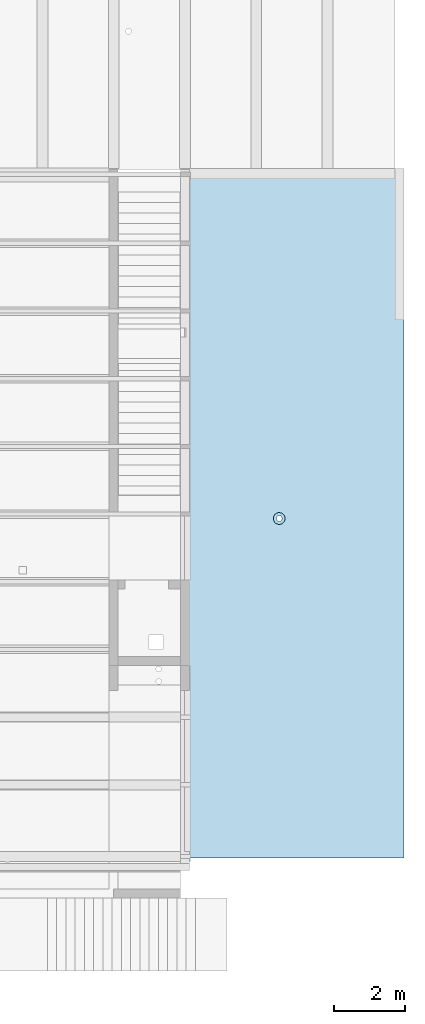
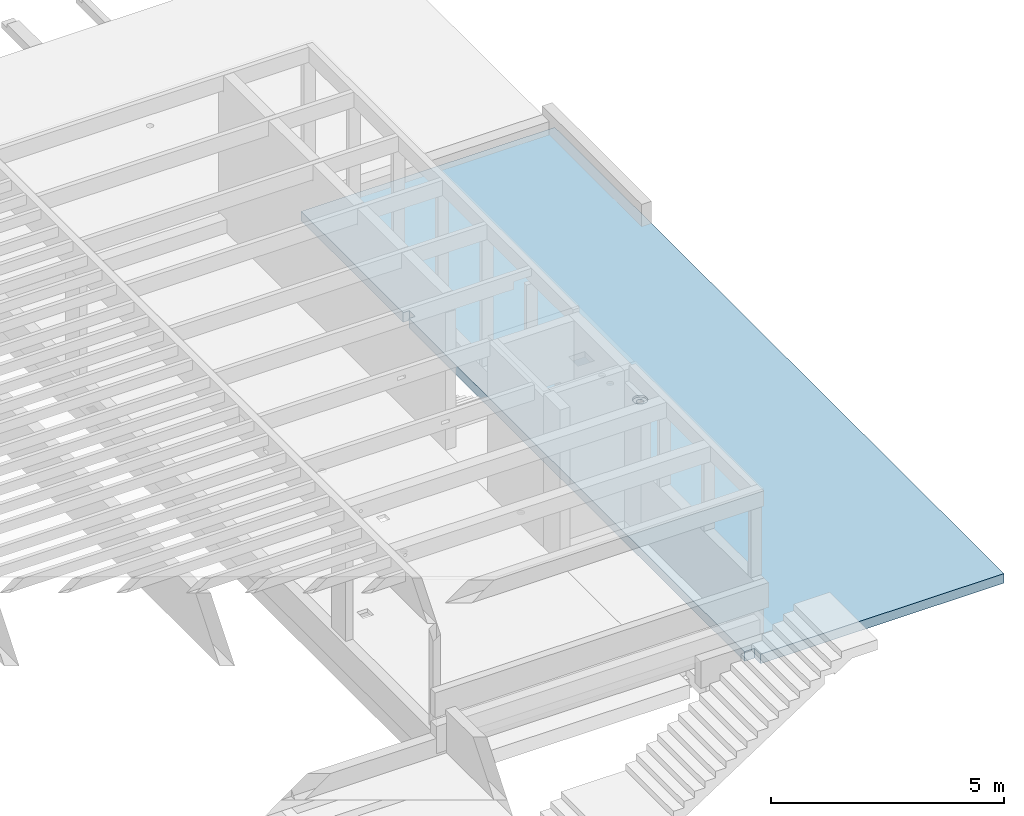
# One storey, part 9 of 14: 1 slab, 12 openings.
"""IFC2X3 building model written with IfcOpenShell, lengths in metres."""

from ifc_helpers import new_model, entity, si_unit, converted_unit, direction, frame, frame_2d, origin, origin_2d_with_axis, place, context, subcontext, project, spatial, polyline, rectangle, circle, outline, extrude, faceted_brep, material, layer, layer_set, layer_usage, type_object, element, save


model = new_model("IFC2X3")

# Units and contexts
model_context = context("Model", 3, precision=1e-05, world=frame((30.086303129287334, 2.687674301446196, 462.0)), true_north=direction((0.19008937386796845, 0.9817667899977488)))
body_context = subcontext(model_context, "Body", "Model", "MODEL_VIEW")
ifc_project = project(units=[si_unit("LENGTHUNIT", "METRE"), si_unit("AREAUNIT", "SQUARE_METRE"), converted_unit("PLANEANGLEUNIT", "DEGREE", entity("IfcPlaneAngleMeasure", 0.017453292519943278), si_unit("PLANEANGLEUNIT", "RADIAN"), dimensions=[0, 0, 0, 0, 0, 0, 0]), si_unit("VOLUMEUNIT", "CUBIC_METRE")], contexts=[model_context])

# Site, building, storey
site_placement = place(None, origin())
site = spatial("IfcSite", under=ifc_project, at=site_placement, Name="Default", CompositionType="ELEMENT")
building_placement = place(site_placement, origin())
building = spatial("IfcBuilding", under=site, at=building_placement, CompositionType="ELEMENT")
storey_placement = place(building_placement, origin())
storey = spatial("IfcBuildingStorey", under=building, at=storey_placement, Name="FB_E00_OKFB", CompositionType="ELEMENT", Elevation=0.0)

# Slab, openings
ifc_material = material(Name="WS_CONCRETE_REINFORCED")
ifc_layer = layer(ifc_material, 0.24999999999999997)
ifc_layer_set = layer_set([ifc_layer], Name="Geschossdecke:WS_SLB_CON_250")
ifc_layer_usage = layer_usage(ifc_layer_set, "AXIS3", "POSITIVE", 0.0)
slab_type = type_object("IfcSlabType", Name="Geschossdecke:WS_SLB_CON_250", PredefinedType="FLOOR", material=ifc_layer_set)
slab_placement = place(storey_placement, frame((91.98033873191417, -20.484648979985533, 3.429999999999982)))
slab = element("IfcSlab", 1, at=slab_placement, inside=storey, type_object=slab_type, material=ifc_layer_usage, Name="Geschossdecke:WS_SLB_CON_250", ObjectType="Geschossdecke:WS_SLB_CON_250", PredefinedType="FLOOR", context=body_context, shape_type="SweptSolid", body=[
    extrude(outline(polyline([(-3.1374995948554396, 9.624996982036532), (-3.1374995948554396, -9.624996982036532), (2.887499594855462, -9.624996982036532), (2.887499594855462, -9.374996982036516), (3.1374995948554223, -9.374996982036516), (3.1374995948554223, 9.624996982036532), (-3.1374995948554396, 9.624996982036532)])), frame((3.1374995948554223, 9.624996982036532, 0.2500000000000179), z_axis=(0.0, 0.0, -1.0), x_axis=(-1.0, 0.0, 0.0)), (0.0, 0.0, 1.0), 0.25),
])
opening_1_placement = place(slab_placement, origin())
element("IfcOpeningElement", 2, at=opening_1_placement, cuts=slab, Name="Geschossdecke:WS_SLB_CON_250", ObjectType="Opening", context=body_context, shape_type="SweptSolid", body=[
    extrude(rectangle(XDim=0.24999999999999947, YDim=0.15000000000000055, at=origin_2d_with_axis()), frame((0.07500000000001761, 14.750722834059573, 0.0), z_axis=(0.0, 0.0, 1.0), x_axis=(0.0, -1.0, 0.0)), (0.0, 0.0, 1.0), 0.25),
])
opening_2_placement = place(slab_placement, origin())
element("IfcOpeningElement", 3, at=opening_2_placement, cuts=slab, Name="Geschossdecke:WS_SLB_CON_250", ObjectType="Opening", context=body_context, shape_type="SweptSolid", body=[
    extrude(circle(Radius=0.08, at=frame_2d((1.0609038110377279e-30, -1.7325874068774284e-14), x_axis=(1.0, 0.0))), frame((2.7710852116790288, 9.524992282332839, 0.0), z_axis=(0.0, 0.0, 1.0), x_axis=(0.0, 1.0, 0.0)), (0.0, 0.0, 1.0), 0.25),
])
opening_3_placement = place(slab_placement, origin())
element("IfcOpeningElement", 4, at=opening_3_placement, cuts=slab, Name="Geschossdecke:WS_SLB_CON_250", ObjectType="Opening", context=body_context, shape_type="SweptSolid", body=[
    extrude(circle(Radius=0.16499999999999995, at=frame_2d((1.0609038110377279e-30, -1.7325874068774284e-14), x_axis=(1.0, 0.0))), frame((2.7710852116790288, 9.524992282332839, 0.2000000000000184), z_axis=(0.0, 0.0, 1.0), x_axis=(0.0, 1.0, 0.0)), (0.0, 0.0, 1.0), 0.05),
])
opening_4_placement = place(slab_placement, origin())
element("IfcOpeningElement", 5, at=opening_4_placement, cuts=slab, Name="Geschossdecke:WS_SLB_CON_250", ObjectType="Opening", context=body_context, shape_type="SweptSolid", body=[
    extrude(circle(Radius=0.031499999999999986, at=frame_2d((-3.336287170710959e-27, -3.465174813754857e-14), x_axis=(1.0, 0.0))), frame((3.1250000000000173, 18.6811478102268, -0.0307692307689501), z_axis=(0.0, 0.923076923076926, 0.38461538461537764), x_axis=(0.0, -0.38461538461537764, 0.923076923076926)), (0.0, 0.0, 1.0), 0.7999999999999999),
])
opening_5_placement = place(slab_placement, origin())
element("IfcOpeningElement", 6, at=opening_5_placement, cuts=slab, Name="Geschossdecke:WS_SLB_CON_250", ObjectType="Opening", context=body_context, shape_type="SweptSolid", body=[
    extrude(circle(Radius=0.031499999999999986, at=frame_2d((-1.6785047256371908e-27, -1.7325874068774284e-14), x_axis=(1.0, 0.0))), frame((3.5249999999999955, 18.681147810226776, -0.0307692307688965), z_axis=(0.0, 0.923076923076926, 0.38461538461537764), x_axis=(0.0, -0.38461538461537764, 0.923076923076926)), (0.0, 0.0, 1.0), 0.7999999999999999),
])
opening_6_placement = place(slab_placement, origin())
element("IfcOpeningElement", 7, at=opening_6_placement, cuts=slab, Name="Geschossdecke:WS_SLB_CON_250", ObjectType="Opening", context=body_context, shape_type="SweptSolid", body=[
    extrude(circle(Radius=0.031499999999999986, at=frame_2d((-3.3984540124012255e-27, -3.465174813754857e-14), x_axis=(1.0, 0.0))), frame((3.9250000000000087, 18.68114781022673, -0.030769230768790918), z_axis=(0.0, 0.923076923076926, 0.38461538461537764), x_axis=(0.0, -0.38461538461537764, 0.923076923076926)), (0.0, 0.0, 1.0), 0.7999999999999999),
])
opening_7_placement = place(slab_placement, origin())
element("IfcOpeningElement", 8, at=opening_7_placement, cuts=slab, Name="Geschossdecke:WS_SLB_CON_250", ObjectType="Opening", context=body_context, shape_type="SweptSolid", body=[
    extrude(circle(Radius=0.031499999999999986, at=frame_2d((-1.719949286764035e-27, -1.7325874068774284e-14), x_axis=(1.0, 0.0))), frame((4.324999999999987, 18.681147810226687, -0.030769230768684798), z_axis=(0.0, 0.923076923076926, 0.38461538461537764), x_axis=(0.0, -0.38461538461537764, 0.923076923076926)), (0.0, 0.0, 1.0), 0.7999999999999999),
])
opening_8_placement = place(slab_placement, origin())
element("IfcOpeningElement", 9, at=opening_8_placement, cuts=slab, Name="Geschossdecke:WS_SLB_CON_250", ObjectType="Opening", context=body_context, shape_type="SweptSolid", body=[
    extrude(circle(Radius=0.031499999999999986, at=frame_2d((-3.481343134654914e-27, -3.465174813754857e-14), x_axis=(1.0, 0.0))), frame((4.7250000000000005, 18.68114781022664, -0.030769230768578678), z_axis=(0.0, 0.923076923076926, 0.38461538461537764), x_axis=(0.0, -0.38461538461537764, 0.923076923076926)), (0.0, 0.0, 1.0), 0.7999999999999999),
])
opening_9_placement = place(slab_placement, origin())
element("IfcOpeningElement", 10, at=opening_9_placement, cuts=slab, Name="Geschossdecke:WS_SLB_CON_250", ObjectType="Opening", context=body_context, shape_type="SweptSolid", body=[
    extrude(circle(Radius=0.031499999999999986, at=frame_2d((-1.7613938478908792e-27, -1.7325874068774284e-14), x_axis=(1.0, 0.0))), frame((5.124999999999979, 18.681147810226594, -0.030769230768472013), z_axis=(0.0, 0.923076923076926, 0.38461538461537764), x_axis=(0.0, -0.38461538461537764, 0.923076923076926)), (0.0, 0.0, 1.0), 0.7999999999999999),
])
opening_10_placement = place(slab_placement, origin())
element("IfcOpeningElement", 11, at=opening_10_placement, cuts=slab, Name="Geschossdecke:WS_SLB_CON_250", ObjectType="Opening", context=body_context, shape_type="SweptSolid", body=[
    extrude(circle(Radius=0.031499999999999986, at=frame_2d((-3.564232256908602e-27, -3.465174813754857e-14), x_axis=(1.0, 0.0))), frame((5.5249999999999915, 18.681147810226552, -0.03076923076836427), z_axis=(0.0, 0.923076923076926, 0.38461538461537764), x_axis=(0.0, -0.38461538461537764, 0.923076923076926)), (0.0, 0.0, 1.0), 0.7999999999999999),
])
opening_11_placement = place(slab_placement, origin())
element("IfcOpeningElement", 12, at=opening_11_placement, cuts=slab, Name="Geschossdecke:WS_SLB_CON_250", ObjectType="Opening", context=body_context, shape_type="SweptSolid", body=[
    extrude(circle(Radius=0.031499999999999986, at=frame_2d((-1.8028384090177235e-27, -1.7325874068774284e-14), x_axis=(1.0, 0.0))), frame((5.92499999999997, 18.681147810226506, -0.030769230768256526), z_axis=(0.0, 0.923076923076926, 0.38461538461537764), x_axis=(0.0, -0.38461538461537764, 0.923076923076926)), (0.0, 0.0, 1.0), 0.7999999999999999),
])
opening_12_placement = place(slab_placement, frame((-91.98033873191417, 20.484648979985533, -3.429999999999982)))
element("IfcOpeningElement", 13, at=opening_12_placement, cuts=slab, Name="Geschossdecke:WS_SLB_CON_250", ObjectType="Opening", context=body_context, shape_type="Brep", body=[
    faceted_brep([(93.09770733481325, -1.347155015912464, 3.4300000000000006), (93.10644785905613, -1.3357641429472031, 3.4299999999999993), (93.11783873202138, -1.327023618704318, 3.4299999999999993), (93.13110368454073, -1.3215290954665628, 3.4299999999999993), (93.14533873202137, -1.3196550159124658, 3.4299999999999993), (93.15957377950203, -1.321529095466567, 3.4299999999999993), (93.17283873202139, -1.327023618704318, 3.4299999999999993), (93.18422960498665, -1.3357641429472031, 3.4299999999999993), (93.19297012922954, -1.347155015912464, 3.4300000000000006), (93.1984646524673, -1.360419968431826, 3.4300000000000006), (93.20033873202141, -1.374655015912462, 3.4300000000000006), (93.1984646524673, -1.3888900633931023, 3.4300000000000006), (93.19297012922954, -1.4021550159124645, 3.4300000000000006), (93.18422960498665, -1.4135458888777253, 3.4300000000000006), (93.17283873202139, -1.42228641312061, 3.4300000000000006), (93.15957377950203, -1.4277809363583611, 3.4300000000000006), (93.14533873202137, -1.4296550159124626, 3.4300000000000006), (93.13110368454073, -1.4277809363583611, 3.4300000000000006), (93.11783873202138, -1.4222864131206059, 3.4300000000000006), (93.10644785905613, -1.4135458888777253, 3.4300000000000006), (93.09770733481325, -1.4021550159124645, 3.4300000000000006), (93.0922128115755, -1.3888900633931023, 3.4300000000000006), (93.09033873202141, -1.374655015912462, 3.4300000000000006), (93.0922128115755, -1.360419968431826, 3.4300000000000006), (93.1128086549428, -1.235741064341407, 3.6665897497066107), (93.11783873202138, -1.1746550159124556, 3.6776313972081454), (93.10644785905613, -1.1746550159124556, 3.6688908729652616), (93.15229424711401, -1.422540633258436, 3.487902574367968), (93.13305549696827, -1.3526838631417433, 3.6106216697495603), (93.11752696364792, -1.3473047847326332, 3.607266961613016), (93.12571854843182, -1.3919555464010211, 3.5563846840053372), (93.1772467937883, -1.2731700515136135, 3.654100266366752), (93.18101500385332, -1.313424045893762, 3.628088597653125), (93.18864572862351, -1.294195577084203, 3.6310504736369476), (93.09600402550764, -1.2473030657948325, 3.642222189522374), (93.09169023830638, -1.2507372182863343, 3.628003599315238), (93.09433904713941, -1.2964059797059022, 3.613949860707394), (93.13845561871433, -1.4175943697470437, 3.506060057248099), (93.14951884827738, -1.3952089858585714, 3.557670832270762), (93.09280243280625, -1.3262880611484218, 3.584217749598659), (93.09033873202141, -1.3310213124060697, 3.554697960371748), (93.0935466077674, -1.3571058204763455, 3.5502405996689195), (93.15218220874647, -1.2604844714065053, 3.6696674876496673), (93.16364186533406, -1.301760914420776, 3.6474399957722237), (93.16573224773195, -1.2350721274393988, 3.673701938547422), (93.0922128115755, -1.1746550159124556, 3.644235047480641), (93.09033873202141, -1.1746550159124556, 3.6300000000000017), (93.09033873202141, -1.2191592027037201, 3.6249855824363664), (93.09979575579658, -1.3073291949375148, 3.6188985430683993), (93.20033873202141, -1.3696405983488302, 3.474504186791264), (93.19898722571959, -1.3726586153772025, 3.5060822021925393), (93.09128931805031, -1.2928186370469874, 3.603820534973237), (93.09033873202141, -1.2614317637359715, 3.6101937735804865), (93.09033873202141, -1.299352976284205, 3.5863662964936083), (93.19633841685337, -1.3586048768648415, 3.551750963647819), (93.19088170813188, -1.3635535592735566, 3.562674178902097), (93.19467343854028, -1.3868772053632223, 3.502648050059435), (93.13839344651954, -1.2351447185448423, 3.677268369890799), (93.13110368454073, -1.1746550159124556, 3.6831259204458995), (93.12488963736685, -1.230063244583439, 3.674866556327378), (93.18833730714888, -1.4057981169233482, 3.468299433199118), (93.17283873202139, -1.1746550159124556, 3.6776313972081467), (93.15957377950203, -1.1746550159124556, 3.6831259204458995), (93.18422960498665, -1.1746550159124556, 3.6688908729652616), (93.17812479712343, -1.2197053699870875, 3.669967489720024), (93.18787859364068, -1.2392791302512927, 3.6557961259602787), (93.19938814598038, -1.348475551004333, 3.5481636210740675), (93.19787503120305, -1.3288727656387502, 3.581633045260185), (93.10234015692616, -1.2129544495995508, 3.6611431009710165), (93.09770733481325, -1.1746550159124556, 3.6575000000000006), (93.14533873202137, -1.1746550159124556, 3.685000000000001), (93.20033873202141, -1.3548487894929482, 3.5167767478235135), (93.19297012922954, -1.1746550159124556, 3.657500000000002), (93.19313743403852, -1.32828506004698, 3.597395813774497), (93.20033873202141, -1.1746550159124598, 3.6300000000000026), (93.1984646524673, -1.1746550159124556, 3.644235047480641), (93.19908638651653, -1.2247309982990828, 3.6356613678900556), (93.19537490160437, -1.230834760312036, 3.6456356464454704), (93.11281263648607, -1.4111838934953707, 3.491332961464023), (93.10322465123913, -1.3929776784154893, 3.5179584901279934), (93.10234844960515, -1.4057277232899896, 3.468784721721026), (93.14030376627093, -1.299497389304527, 3.6520847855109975), (93.18610499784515, -1.3421829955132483, 3.597527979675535), (93.09033873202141, -1.3548487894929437, 3.516776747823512), (93.09754002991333, -1.3420508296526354, 3.5836300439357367), (93.10457246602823, -1.3421829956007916, 3.5975279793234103), (93.1123815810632, -1.2969744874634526, 3.6411625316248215), (93.09538077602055, -1.3890319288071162, 3.4914288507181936), (93.0916327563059, -1.3738247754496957, 3.5022234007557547), (93.17786880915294, -1.4112447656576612, 3.491086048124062), (93.17789218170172, -1.3839536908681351, 3.5560630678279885), (93.16514576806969, -1.4000166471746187, 3.5412145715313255), (93.09812195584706, -1.3731838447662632, 3.5425356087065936), (93.10393651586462, -1.3716210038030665, 3.560374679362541), (93.12489201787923, -1.4194737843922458, 3.4856233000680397), (93.17265115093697, -1.3109233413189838, 3.6368952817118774), (93.11266988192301, -1.3847661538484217, 3.55453765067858), (93.20033873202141, -1.2993529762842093, 3.5863662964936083), (93.19713085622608, -1.2948956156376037, 3.61245080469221), (93.20033873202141, -1.3310213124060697, 3.5546979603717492), (93.20033873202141, -1.2614317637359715, 3.6101937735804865), (93.12567978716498, -1.297940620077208, 3.6490566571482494), (93.13742509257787, -1.3950398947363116, 3.5571375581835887), (93.16581990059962, -1.4201471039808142, 3.4825060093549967), (93.09033873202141, -1.3696405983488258, 3.474504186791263), (93.1676836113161, -1.3571593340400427, 3.6012321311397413), (93.20033873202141, -1.2191592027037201, 3.6249855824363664), (93.18746780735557, -1.393279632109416, 3.5171570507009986), (93.10320965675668, -1.2618120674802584, 3.648624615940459), (93.15373937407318, -1.30273353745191, 3.649754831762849), (93.15182274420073, -1.340761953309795, 3.6229715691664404), (93.1776670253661, -1.3522307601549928, 3.598062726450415), (93.19770249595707, -1.2197823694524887, 3.607530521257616), (93.19667198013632, -1.2444654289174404, 3.5961868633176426), (93.19070823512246, -1.2116838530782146, 3.5948009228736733), (93.1984646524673, -1.1746550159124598, 3.6157649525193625), (93.1225362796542, -1.3150859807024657, 3.4825738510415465), (93.11005020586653, -1.3274708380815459, 3.4693999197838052), (93.11035886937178, -1.308760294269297, 3.512704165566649), (93.19297012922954, -1.1746550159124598, 3.6025000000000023), (93.11340951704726, -1.2430571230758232, 3.569332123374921), (93.11016026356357, -1.211640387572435, 3.5833236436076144), (93.12284673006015, -1.2181105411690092, 3.5733681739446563), (93.19861409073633, -1.2706561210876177, 3.589701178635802), (93.19942913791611, -1.2452244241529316, 3.6064501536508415), (93.15957377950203, -1.1746550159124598, 3.5768740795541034), (93.17283873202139, -1.1746550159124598, 3.5823686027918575), (93.16722363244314, -1.199887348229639, 3.577397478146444), (93.18422960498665, -1.1746550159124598, 3.5911091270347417), (93.15299498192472, -1.2141016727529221, 3.57008762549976), (93.14533873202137, -1.1746550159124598, 3.5750000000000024), (93.16826216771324, -1.230734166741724, 3.569127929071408), (93.18067998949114, -1.2152104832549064, 3.582558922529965), (93.18116510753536, -1.2601340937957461, 3.5632006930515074), (93.09122907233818, -1.3513459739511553, 3.5002493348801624), (93.1235221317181, -1.3223624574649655, 3.453159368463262), (93.11783873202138, -1.1746550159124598, 3.5823686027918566), (93.10644785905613, -1.1746550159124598, 3.5911091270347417), (93.19127055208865, -1.3073825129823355, 3.535817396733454), (93.190119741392, -1.281177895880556, 3.5599987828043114), (93.1965244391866, -1.3018457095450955, 3.55719069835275), (93.19544809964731, -1.2776052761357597, 3.5743821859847), (93.19252023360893, -1.252007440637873, 3.5833282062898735), (93.15568182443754, -1.2575931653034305, 3.550132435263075), (93.09298840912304, -1.2193480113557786, 3.6075972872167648), (93.09770733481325, -1.1746550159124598, 3.6025000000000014), (93.10029774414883, -1.2044723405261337, 3.5957754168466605), (93.0922128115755, -1.1746550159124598, 3.6157649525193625), (93.0929749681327, -1.3521855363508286, 3.4751273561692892), (93.09394747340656, -1.3411059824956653, 3.4995720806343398), (93.10006907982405, -1.3397859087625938, 3.4648314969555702), (93.13110368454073, -1.1746550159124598, 3.5768740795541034), (93.1377891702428, -1.2053676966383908, 3.5722426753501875), (93.12144946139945, -1.2630585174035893, 3.5517487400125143), (93.13735577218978, -1.2397877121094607, 3.560199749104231), (93.19070823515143, -1.3394559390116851, 3.4670288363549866), (93.19770249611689, -1.3521855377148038, 3.4751273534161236), (93.1425373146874, -1.2688233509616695, 3.540354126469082), (93.09244974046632, -1.2695888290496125, 3.5886780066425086), (93.16722363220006, -1.3220524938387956, 3.455232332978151), (93.1529949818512, -1.3147426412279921, 3.4694466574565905), (93.19967647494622, -1.3100593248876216, 3.565404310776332), (93.17020521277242, -1.2813873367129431, 3.5367323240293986), (93.16683355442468, -1.2575134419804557, 3.554286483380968), (93.19927702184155, -1.3492610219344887, 3.50298337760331), (93.13773373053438, -1.3158452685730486, 3.4652676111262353), (93.16826216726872, -1.3137829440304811, 3.486079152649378), (93.1811651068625, -1.3078557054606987, 3.5154790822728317), (93.1806799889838, -1.3272139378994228, 3.47055546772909), (93.1986140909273, -1.3343561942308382, 3.5260011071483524), (93.0921589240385, -1.3340930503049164, 3.5257259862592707), (93.10548534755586, -1.2381935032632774, 3.5791241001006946), (93.14431234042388, -1.3060365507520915, 3.491373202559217), (93.10059683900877, -1.2675972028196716, 3.5699647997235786), (93.09871670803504, -1.239517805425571, 3.5880278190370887), (93.09564805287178, -1.3200044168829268, 3.529994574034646), (93.10115119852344, -1.3075735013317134, 3.5315172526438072), (93.09832780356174, -1.3295313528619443, 3.5035472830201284), (93.09104796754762, -1.309850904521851, 3.5651958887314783), (93.094342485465, -1.3015095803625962, 3.5568545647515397), (93.15568182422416, -1.2947874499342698, 3.5129381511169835), (93.09144796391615, -1.2479789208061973, 3.604207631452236), (93.10675721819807, -1.281830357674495, 3.5498782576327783), (93.12255983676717, -1.2960771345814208, 3.5179677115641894), (93.1925202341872, -1.3279832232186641, 3.507352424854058), (93.0943228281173, -1.239900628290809, 3.597166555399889), (93.16000391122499, -1.2785934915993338, 3.5339384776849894), (93.16683355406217, -1.2989414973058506, 3.512858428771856), (93.13708059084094, -1.2928859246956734, 3.5150156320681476), (93.18266318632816, -1.2875116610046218, 3.54285665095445), (93.11396036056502, -1.290030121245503, 3.5332505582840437), (93.13308790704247, -1.3075140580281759, 3.4914498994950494), (93.13069421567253, -1.275684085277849, 3.53676076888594), (93.10007282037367, -1.2900840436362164, 3.5531087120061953), (93.09770733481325, -1.124649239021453, 3.6024999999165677), (93.0922128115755, -1.124649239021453, 3.6157649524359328), (93.09033873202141, -1.124649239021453, 3.6299999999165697), (93.0922128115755, -1.124649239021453, 3.644235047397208), (93.09770733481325, -1.124649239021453, 3.6574999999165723), (93.10644785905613, -1.124649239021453, 3.668890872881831), (93.11783873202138, -1.124649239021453, 3.677631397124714), (93.13110368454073, -1.124649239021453, 3.683125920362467), (93.14533873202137, -1.124649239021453, 3.6849999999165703), (93.15957377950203, -1.124649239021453, 3.683125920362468), (93.17283873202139, -1.124649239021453, 3.677631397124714), (93.18422960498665, -1.124649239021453, 3.668890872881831), (93.19297012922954, -1.124649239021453, 3.6574999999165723), (93.1984646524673, -1.124649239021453, 3.644235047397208), (93.20033873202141, -1.124649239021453, 3.6299999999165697), (93.1984646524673, -1.124649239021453, 3.6157649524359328), (93.19297012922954, -1.124649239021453, 3.6024999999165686), (93.18422960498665, -1.124649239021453, 3.59110912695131), (93.17283873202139, -1.124649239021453, 3.5823686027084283), (93.15957377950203, -1.124649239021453, 3.576874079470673), (93.14533873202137, -1.124649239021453, 3.5749999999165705), (93.13110368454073, -1.124649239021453, 3.576874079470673), (93.11783873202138, -1.124649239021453, 3.582368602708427), (93.10644785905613, -1.124649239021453, 3.59110912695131)], [[[0, 1, 2, 3, 4, 5, 6, 7, 8, 9, 10, 11, 12, 13, 14, 15, 16, 17, 18, 19, 20, 21, 22, 23]], [[24, 25, 26]], [[27, 16, 15]], [[28, 29, 30]], [[31, 32, 33]], [[34, 35, 36]], [[37, 27, 38]], [[39, 40, 41]], [[42, 43, 44]], [[45, 46, 47]], [[36, 48, 34]], [[11, 49, 50]], [[51, 52, 53]], [[51, 36, 35]], [[54, 55, 56]], [[45, 47, 35]], [[57, 58, 59]], [[60, 13, 12]], [[44, 61, 62]], [[63, 64, 65]], [[66, 67, 54]], [[52, 35, 47]], [[68, 26, 69]], [[62, 70, 42]], [[71, 50, 49]], [[63, 65, 72]], [[73, 54, 67]], [[57, 42, 70]], [[74, 75, 76]], [[75, 77, 76]], [[16, 27, 37]], [[78, 79, 80]], [[57, 81, 42]], [[33, 82, 73]], [[37, 17, 16]], [[41, 40, 83]], [[72, 77, 75]], [[36, 39, 84]], [[85, 29, 86]], [[21, 87, 88]], [[89, 90, 91]], [[84, 48, 36]], [[88, 22, 21]], [[20, 19, 80]], [[84, 92, 93]], [[78, 94, 30]], [[95, 32, 31]], [[44, 62, 42]], [[78, 18, 94]], [[19, 18, 78]], [[87, 21, 20]], [[73, 55, 54]], [[96, 79, 78]], [[50, 66, 54]], [[97, 98, 67]], [[45, 35, 34]], [[71, 99, 66]], [[10, 49, 11]], [[11, 50, 56]], [[77, 72, 65]], [[64, 63, 61]], [[13, 60, 89]], [[89, 14, 13]], [[97, 100, 98]], [[50, 54, 56]], [[68, 24, 26]], [[20, 80, 87]], [[81, 101, 28]], [[37, 38, 102]], [[15, 14, 103]], [[88, 83, 104]], [[91, 90, 105]], [[36, 51, 39]], [[70, 58, 57]], [[76, 100, 106]], [[18, 17, 94]], [[96, 78, 30]], [[92, 87, 79]], [[88, 87, 41]], [[90, 89, 107]], [[103, 89, 91]], [[86, 24, 108]], [[101, 57, 59]], [[58, 25, 59]], [[81, 57, 101]], [[43, 109, 110]], [[64, 44, 31]], [[38, 105, 110]], [[31, 44, 43]], [[55, 90, 107]], [[33, 32, 82]], [[111, 82, 32]], [[110, 105, 43]], [[60, 56, 107]], [[11, 56, 12]], [[68, 34, 108]], [[45, 34, 69]], [[103, 27, 15]], [[38, 27, 91]], [[105, 38, 91]], [[38, 110, 28]], [[101, 29, 28]], [[109, 81, 110]], [[28, 30, 102]], [[110, 81, 28]], [[101, 24, 86]], [[93, 85, 84]], [[30, 29, 96]], [[85, 96, 29]], [[33, 77, 65]], [[98, 100, 76]], [[17, 37, 94]], [[30, 94, 37]], [[25, 24, 59]], [[101, 59, 24]], [[86, 108, 48]], [[101, 86, 29]], [[89, 103, 14]], [[27, 103, 91]], [[44, 64, 61]], [[65, 64, 31]], [[71, 66, 50]], [[99, 97, 67]], [[67, 66, 99]], [[73, 67, 98]], [[98, 77, 33]], [[73, 82, 55]], [[98, 33, 73]], [[31, 33, 65]], [[90, 55, 82]], [[56, 55, 107]], [[95, 31, 43]], [[82, 111, 90]], [[95, 111, 32]], [[105, 90, 111]], [[43, 105, 95]], [[111, 95, 105]], [[52, 51, 35]], [[53, 40, 39]], [[39, 51, 53]], [[84, 39, 41]], [[92, 84, 41]], [[84, 85, 48]], [[86, 48, 85]], [[34, 48, 108]], [[87, 92, 41]], [[92, 79, 93]], [[79, 96, 93]], [[96, 85, 93]], [[98, 76, 77]], [[74, 76, 106]], [[83, 88, 41]], [[88, 104, 22]], [[78, 80, 19]], [[87, 80, 79]], [[56, 60, 12]], [[89, 60, 107]], [[34, 68, 69]], [[24, 68, 108]], [[43, 42, 109]], [[81, 109, 42]], [[28, 102, 38]], [[30, 37, 102]], [[112, 113, 114]], [[115, 74, 106]], [[116, 117, 118]], [[112, 119, 115]], [[106, 112, 115]], [[120, 121, 122]], [[123, 100, 97]], [[124, 106, 100]], [[125, 126, 127]], [[114, 128, 119]], [[125, 129, 130]], [[131, 132, 133]], [[117, 2, 1]], [[113, 124, 123]], [[134, 104, 83]], [[117, 116, 135]], [[136, 121, 137]], [[138, 139, 140]], [[141, 142, 113]], [[131, 143, 129]], [[144, 145, 146]], [[46, 147, 47]], [[122, 121, 136]], [[148, 149, 150]], [[151, 130, 152]], [[151, 122, 136]], [[153, 122, 154]], [[144, 147, 145]], [[146, 145, 137]], [[155, 156, 8]], [[154, 143, 157]], [[52, 158, 53]], [[5, 159, 6]], [[5, 4, 160]], [[99, 161, 97]], [[133, 162, 163]], [[164, 49, 156]], [[127, 129, 125]], [[160, 4, 165]], [[166, 159, 160]], [[9, 156, 49]], [[126, 128, 132]], [[166, 167, 168]], [[10, 9, 49]], [[169, 140, 161]], [[6, 168, 7]], [[7, 155, 8]], [[40, 170, 83]], [[135, 3, 2]], [[8, 156, 9]], [[133, 142, 139]], [[120, 171, 121]], [[165, 172, 160]], [[127, 132, 131]], [[171, 173, 174]], [[175, 176, 177]], [[134, 170, 149]], [[178, 158, 179]], [[53, 178, 40]], [[166, 160, 180]], [[1, 0, 150]], [[151, 152, 122]], [[6, 159, 168]], [[181, 47, 144]], [[23, 22, 104]], [[23, 104, 148]], [[176, 182, 118]], [[183, 116, 118]], [[184, 169, 164]], [[148, 0, 23]], [[47, 147, 144]], [[99, 71, 169]], [[114, 132, 128]], [[158, 181, 185]], [[143, 131, 163]], [[152, 129, 154]], [[4, 3, 165]], [[180, 186, 187]], [[166, 187, 167]], [[155, 168, 184]], [[150, 117, 1]], [[177, 176, 118]], [[163, 186, 143]], [[154, 129, 143]], [[172, 180, 160]], [[180, 188, 157]], [[122, 153, 120]], [[121, 171, 146]], [[132, 142, 133]], [[142, 141, 139]], [[189, 162, 133]], [[184, 168, 167]], [[177, 118, 117]], [[153, 183, 190]], [[135, 165, 3]], [[172, 191, 188]], [[112, 114, 119]], [[132, 114, 142]], [[168, 155, 7]], [[156, 155, 184]], [[192, 154, 157]], [[188, 191, 183]], [[181, 158, 52]], [[158, 174, 173]], [[148, 150, 0]], [[117, 150, 177]], [[170, 40, 178]], [[170, 175, 149]], [[129, 152, 130]], [[122, 152, 154]], [[123, 97, 161]], [[123, 141, 113]], [[164, 169, 71]], [[169, 184, 138]], [[121, 146, 137]], [[146, 174, 185]], [[153, 182, 120]], [[173, 171, 120]], [[190, 183, 118]], [[192, 183, 153]], [[132, 127, 126]], [[129, 127, 131]], [[160, 159, 5]], [[168, 159, 166]], [[177, 149, 175]], [[182, 193, 173]], [[191, 172, 165]], [[180, 172, 188]], [[165, 116, 191]], [[183, 191, 116]], [[173, 120, 182]], [[146, 171, 174]], [[193, 182, 176]], [[158, 173, 179]], [[176, 179, 193]], [[179, 173, 193]], [[117, 135, 2]], [[165, 135, 116]], [[158, 178, 53]], [[170, 178, 179]], [[169, 161, 99]], [[161, 140, 141]], [[133, 163, 131]], [[186, 163, 162]], [[157, 143, 186]], [[192, 157, 188]], [[183, 192, 188]], [[154, 192, 153]], [[167, 187, 162]], [[166, 180, 187]], [[187, 186, 162]], [[157, 186, 180]], [[140, 169, 138]], [[189, 133, 139]], [[184, 167, 138]], [[189, 138, 167]], [[138, 189, 139]], [[162, 189, 167]], [[47, 181, 52]], [[185, 181, 144]], [[146, 185, 144]], [[158, 185, 174]], [[150, 149, 177]], [[134, 149, 148]], [[104, 134, 148]], [[170, 134, 83]], [[161, 141, 123]], [[139, 141, 140]], [[114, 113, 142]], [[124, 113, 112]], [[106, 124, 112]], [[123, 124, 100]], [[49, 164, 71]], [[184, 164, 156]], [[118, 182, 190]], [[153, 190, 182]], [[170, 179, 175]], [[179, 176, 175]], [[194, 195, 196, 197, 198, 199, 200, 201, 202, 203, 204, 205, 206, 207, 208, 209, 210, 211, 212, 213, 214, 215, 216, 217]], [[45, 197, 196, 46]], [[69, 198, 197, 45]], [[25, 58, 201, 200]], [[69, 26, 199, 198]], [[26, 25, 200, 199]], [[58, 70, 202, 201]], [[204, 203, 62, 61]], [[63, 205, 204, 61]], [[207, 206, 72, 75]], [[63, 72, 206, 205]], [[208, 207, 75, 74]], [[62, 203, 202, 70]], [[115, 209, 208, 74]], [[119, 210, 209, 115]], [[211, 128, 126, 212]], [[119, 128, 211, 210]], [[212, 126, 125, 213]], [[130, 214, 213, 125]], [[216, 215, 151, 136]], [[137, 217, 216, 136]], [[195, 194, 145, 147]], [[137, 145, 194, 217]], [[196, 195, 147, 46]], [[151, 215, 214, 130]]]),
])

save(model, "model.ifc")
